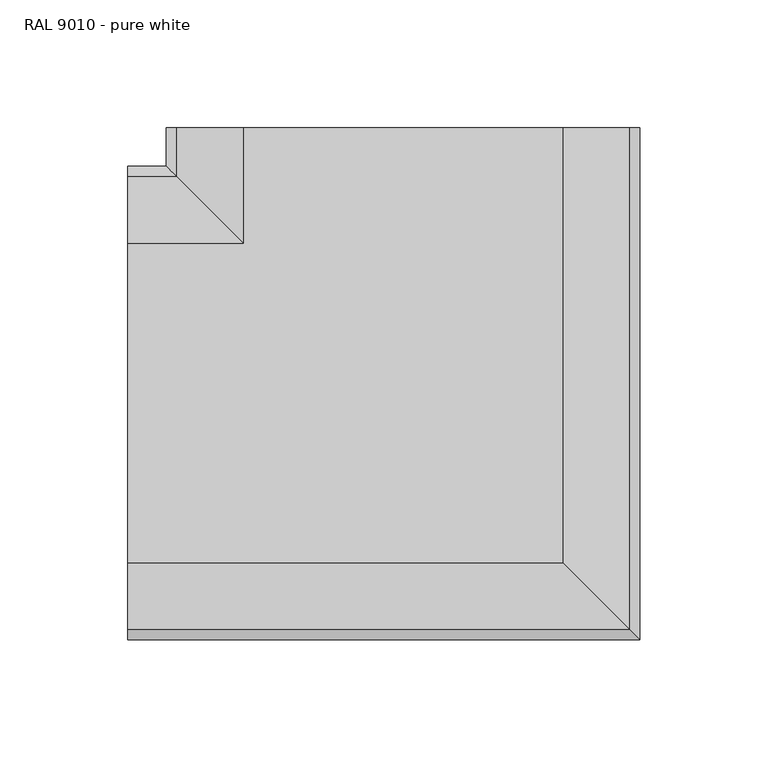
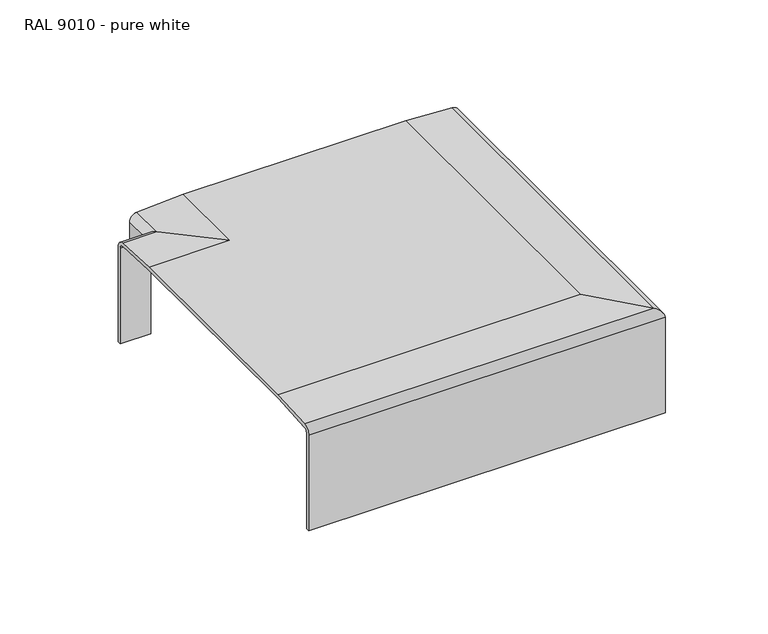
"""IFC4 building model written with IfcOpenShell, lengths in millimetres: cable carrier fitting geometry, Electrical_Installations_Hager_GBD-Flat-Corner-Vertical-Inside-And-Outside-Bend-Curved : RAL 9010 - pure white."""

from ifc_helpers import new_model, si_unit, frame, origin, place, context, project, spatial, polyline, circle_curve, ellipse_curve, source, transform, mapped, element, save
from ifc_brep_helpers import plane_surface, cylinder_surface, revolved_surface, advanced_brep


def ral_9010_pure_white_9b3faca7(model_context):
    return source(origin(), model_context, "Body", "AdvancedBrep", [
        advanced_brep(
        [(-107.5, -62.3381407, 34.8795859), (-107.5, 62.3381407, 34.8795859), (-107.5, 88.4122385, 33.3280659), (-107.5, 92.5, 28.9898348), (-107.5, 92.5, -27.5995611), (-107.5, 90.547897, -27.5995611), (-107.5, 90.547897, 28.9898348), (-107.5, 88.4081012, 31.3266677), (-107.5, 63.3292038, 32.8483359), (-107.5, -63.3292038, 32.8483359), (-107.5, -88.3439873, 31.3314381), (-107.5, -90.5387817, 28.9898348), (-107.5, -90.5387817, -27.70375), (-107.5, -92.5, -27.70375), (-107.5, -92.5, 28.9898348), (-107.5, -88.5359223, 33.3189335), (62.3381407, -62.3381407, 34.8795859), (62.3381407, 107.5, 34.8795859), (-62.3381407, 107.5, 34.8795859), (-62.3381407, 62.3381407, 34.8795859), (-88.4122385, 88.4122385, 33.3280659), (-92.5, 92.5, 28.9898348), (-92.5, 92.5, -27.5995611), (-92.5, 107.5, -27.5995611), (-90.547897, 107.5, -27.5995611), (-90.547897, 90.547897, -27.5995611), (-90.547897, 90.547897, 28.9898348), (-88.4081012, 88.4081012, 31.3266677), (-63.3292038, 63.3292038, 32.8483359), (-63.3292038, 107.5, 32.8483359), (63.3292038, 107.5, 32.8483359), (63.3292038, -63.3292038, 32.8483359), (88.3439873, -88.3439873, 31.3314381), (90.5387817, -90.5387817, 28.9898348), (90.5387817, -90.5387817, -27.70375), (90.5387817, 107.5, -27.70375), (92.5, 107.5, -27.70375), (92.5, -92.5, -27.70375), (92.5, -92.5, 28.9898348), (88.5359223, -88.5359223, 33.3189335), (88.4122385, 107.5, 33.3280659), (92.5, 107.5, 28.9898348), (90.5387817, 107.5, 28.9898348), (88.3989859, 107.5, 31.3266677), (-88.3439873, 107.5, 31.3314381), (-90.547897, 107.5, 28.9898348), (-92.5, 107.5, 28.9898348), (-88.5359223, 107.5, 33.3189335)],
        [
            (0, 1),
            (1, 2, circle_curve(frame((-107.5, 58.0459271, -257.1234178), z_axis=(-1.0, 0.0, 0.0), x_axis=(0.0, 0.0, -1.0)), 292.0345481)),
            (2, 3, circle_curve(frame((-107.5, 88.1540953, 28.9898348), z_axis=(-1.0, 0.0, 0.0), x_axis=(0.0, 0.0, -1.0)), 4.3459047)),
            (3, 4),
            (4, 5),
            (5, 6),
            (6, 7, circle_curve(frame((-107.5, 88.2019923, 28.9898348), z_axis=(1.0, 0.0, 0.0), x_axis=(0.0, 0.0, -1.0)), 2.3459047)),
            (7, 8, circle_curve(frame((-107.5, 58.8141248, -248.6234355), z_axis=(1.0, 0.0, 0.0), x_axis=(0.0, 0.0, -1.0)), 281.5079822)),
            (8, 9),
            (9, 10, circle_curve(frame((-107.5, -58.8141248, -248.6234355), z_axis=(1.0, 0.0, 0.0), x_axis=(0.0, 0.0, -1.0)), 281.5079822)),
            (10, 11, circle_curve(frame((-107.5, -88.192877, 28.9898348), z_axis=(1.0, 0.0, 0.0), x_axis=(0.0, 0.0, -1.0)), 2.3459047)),
            (11, 12),
            (12, 13),
            (13, 14),
            (14, 15, circle_curve(frame((-107.5, -88.1540953, 28.9898348), z_axis=(-1.0, 0.0, 0.0), x_axis=(0.0, 0.0, -1.0)), 4.3459047)),
            (15, 0, circle_curve(frame((-107.5, -58.0459271, -257.1234178), z_axis=(-1.0, 0.0, 0.0), x_axis=(0.0, 0.0, -1.0)), 292.0345481)),
            (0, 16),
            (16, 17),
            (17, 18),
            (18, 19),
            (19, 1),
            (19, 20, ellipse_curve(frame((-58.0459271, 58.0459271, -257.1234178), z_axis=(-0.7071067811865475, -0.7071067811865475, 0.0), x_axis=(-0.7071067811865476, 0.7071067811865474, 0.0)), 412.9992186, 292.0345481)),
            (20, 2),
            (20, 21, ellipse_curve(frame((-88.1540953, 88.1540953, 28.9898348), z_axis=(-0.7071067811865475, -0.7071067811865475, 0.0), x_axis=(-0.7071067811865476, 0.7071067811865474, 0.0)), 6.1460374, 4.3459047)),
            (21, 3),
            (21, 22),
            (22, 4),
            (22, 23),
            (23, 24),
            (24, 25),
            (25, 5),
            (25, 26),
            (26, 6),
            (26, 27, ellipse_curve(frame((-88.2019923, 88.2019923, 28.9898348), z_axis=(0.7071067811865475, 0.7071067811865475, 0.0), x_axis=(0.7071067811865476, -0.7071067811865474, 0.0)), 3.3176103, 2.3459047)),
            (27, 7),
            (27, 28, ellipse_curve(frame((-58.8141248, 58.8141248, -248.6234355), z_axis=(0.7071067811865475, 0.7071067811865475, 0.0), x_axis=(0.7071067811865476, -0.7071067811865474, 0.0)), 398.1124064, 281.5079822)),
            (28, 8),
            (28, 29),
            (29, 30),
            (30, 31),
            (31, 9),
            (31, 32, ellipse_curve(frame((58.8141248, -58.8141248, -248.6234355), z_axis=(0.7071067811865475, 0.7071067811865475, 0.0), x_axis=(0.7071067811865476, -0.7071067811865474, 0.0)), 398.1124064, 281.5079822)),
            (32, 10),
            (32, 33, ellipse_curve(frame((88.192877, -88.192877, 28.9898348), z_axis=(0.7071067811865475, 0.7071067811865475, 0.0), x_axis=(0.7071067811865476, -0.7071067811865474, 0.0)), 3.3176103, 2.3459047)),
            (33, 11),
            (33, 34),
            (34, 12),
            (34, 35),
            (35, 36),
            (36, 37),
            (37, 13),
            (37, 38),
            (38, 14),
            (38, 39, ellipse_curve(frame((88.1540953, -88.1540953, 28.9898348), z_axis=(-0.7071067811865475, -0.7071067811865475, 0.0), x_axis=(-0.7071067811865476, 0.7071067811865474, 0.0)), 6.1460374, 4.3459047)),
            (39, 15),
            (39, 16, ellipse_curve(frame((58.0459271, -58.0459271, -257.1234178), z_axis=(-0.7071067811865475, -0.7071067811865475, 0.0), x_axis=(-0.7071067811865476, 0.7071067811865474, 0.0)), 412.9992186, 292.0345481)),
            (17, 40, circle_curve(frame((58.0459271, 107.5, -257.1234178), z_axis=(0.0, 1.0, 0.0), x_axis=(0.0, 0.0, -1.0)), 292.0345481)),
            (40, 41, circle_curve(frame((88.1540953, 107.5, 28.9898348), z_axis=(0.0, 1.0, 0.0), x_axis=(0.0, 0.0, -1.0)), 4.3459047)),
            (41, 36),
            (35, 42),
            (42, 43, circle_curve(frame((88.192877, 107.5, 28.9898348), z_axis=(0.0, -1.0, 0.0), x_axis=(0.0, 0.0, -1.0)), 2.3459047)),
            (43, 30, circle_curve(frame((58.8141248, 107.5, -248.6234355), z_axis=(0.0, -1.0, 0.0), x_axis=(0.0, 0.0, -1.0)), 281.5079822)),
            (29, 44, circle_curve(frame((-58.8141248, 107.5, -248.6234355), z_axis=(0.0, -1.0, 0.0), x_axis=(0.0, 0.0, -1.0)), 281.5079822)),
            (44, 45, circle_curve(frame((-88.2019923, 107.5, 28.9898348), z_axis=(0.0, -1.0, 0.0), x_axis=(0.0, 0.0, -1.0)), 2.3459047)),
            (45, 24),
            (23, 46),
            (46, 47, circle_curve(frame((-88.1540953, 107.5, 28.9898348), z_axis=(0.0, 1.0, 0.0), x_axis=(0.0, 0.0, -1.0)), 4.3459047)),
            (47, 18, circle_curve(frame((-58.0459271, 107.5, -257.1234178), z_axis=(0.0, 1.0, 0.0), x_axis=(0.0, 0.0, -1.0)), 292.0345481)),
            (47, 20),
            (46, 21),
            (45, 26),
            (44, 27),
            (43, 32),
            (42, 33),
            (41, 38),
            (40, 39),
        ],
        [
            plane_surface(frame((-107.5, 0.0, 0.0), z_axis=(-1.0, 0.0, 0.0), x_axis=(0.0, 0.0, 1.0))),
            plane_surface(frame((-107.5, -62.3381407, 34.8795859), z_axis=(0.0, 0.0, 1.0), x_axis=(1.0, 0.0, 0.0))),
            cylinder_surface(frame((-107.5, 58.0459271, -257.1234178), z_axis=(-1.0, 0.0, 0.0), x_axis=(0.0, 0.0, -1.0)), 292.0345481),
            cylinder_surface(frame((-107.5, 88.1540953, 28.9898348), z_axis=(-1.0, 0.0, 0.0), x_axis=(0.0, 0.0, -1.0)), 4.3459047),
            plane_surface(frame((-107.5, 92.5, 28.9898348), z_axis=(0.0, 1.0, 0.0), x_axis=(1.0, 0.0, 0.0))),
            plane_surface(frame((-107.5, 92.5, -27.5995611), z_axis=(0.0, 0.0, -1.0), x_axis=(1.0, 0.0, 0.0))),
            plane_surface(frame((-107.5, 90.547897, -27.5995611), z_axis=(0.0, -1.0, 0.0), x_axis=(1.0, 0.0, 0.0))),
            revolved_surface(polyline([(-85.85608755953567, 88.2019923, 26.6439301), (-107.5, 88.2019923, 26.6439301)]), (-107.5, 88.2019923, 28.9898348), (1.0, 0.0, 0.0)),
            revolved_surface(polyline([(222.69385743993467, 58.8141248, -530.1314177), (-340.3221070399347, 58.8141248, -530.1314177)]), (-107.5, 58.8141248, -248.6234355), (1.0, 0.0, 0.0)),
            plane_surface(frame((-107.5, 63.3292038, 32.8483359), z_axis=(0.0, 0.0, -1.0), x_axis=(1.0, 0.0, 0.0))),
            revolved_surface(polyline([(340.3221070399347, -58.8141248, -530.1314177), (-222.69385743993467, -58.8141248, -530.1314177)]), (-107.5, -58.8141248, -248.6234355), (1.0, 0.0, 0.0)),
            revolved_surface(polyline([(90.53878174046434, -88.192877, 26.6439301), (-107.5, -88.192877, 26.6439301)]), (-107.5, -88.192877, 28.9898348), (1.0, 0.0, 0.0)),
            plane_surface(frame((-107.5, -90.5387817, 28.9898348), z_axis=(0.0, 1.0, 0.0), x_axis=(1.0, 0.0, 0.0))),
            plane_surface(frame((-107.5, -90.5387817, -27.70375), z_axis=(0.0, 0.0, -1.0), x_axis=(1.0, 0.0, 0.0))),
            plane_surface(frame((-107.5, -92.5, -27.70375), z_axis=(0.0, -1.0, 0.0), x_axis=(1.0, 0.0, 0.0))),
            cylinder_surface(frame((-107.5, -88.1540953, 28.9898348), z_axis=(-1.0, 0.0, 0.0), x_axis=(0.0, 0.0, -1.0)), 4.3459047),
            cylinder_surface(frame((-107.5, -58.0459271, -257.1234178), z_axis=(-1.0, 0.0, 0.0), x_axis=(0.0, 0.0, -1.0)), 292.0345481),
            plane_surface(frame((0.0, 107.5, 0.0), z_axis=(0.0, 1.0, 0.0), x_axis=(0.0, 0.0, 1.0))),
            cylinder_surface(frame((-58.0459271, 0.0, -257.1234178), z_axis=(0.0, -1.0, 0.0), x_axis=(0.0, 0.0, -1.0)), 292.0345481),
            cylinder_surface(frame((-88.1540953, 0.0, 28.9898348), z_axis=(0.0, -1.0, 0.0), x_axis=(0.0, 0.0, -1.0)), 4.3459047),
            plane_surface(frame((-92.5, 92.5, 28.9898348), z_axis=(-1.0, 0.0, 0.0), x_axis=(0.0, 1.0, 0.0))),
            plane_surface(frame((-90.547897, 90.547897, -27.5995611), z_axis=(1.0, 0.0, 0.0), x_axis=(0.0, 1.0, 0.0))),
            revolved_surface(polyline([(-88.2019923, 107.5, 26.6439301), (-88.2019923, 85.85608755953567, 26.6439301)]), (-88.2019923, 0.0, 28.9898348), (0.0, 1.0, 0.0)),
            revolved_surface(polyline([(-58.8141248, 340.3221070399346, -530.1314177), (-58.8141248, -222.69385743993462, -530.1314177)]), (-58.8141248, 0.0, -248.6234355), (0.0, 1.0, 0.0)),
            revolved_surface(polyline([(58.8141248, 222.69385743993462, -530.1314177), (58.8141248, -340.3221070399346, -530.1314177)]), (58.8141248, 0.0, -248.6234355), (0.0, 1.0, 0.0)),
            revolved_surface(polyline([(88.192877, 107.5, 26.6439301), (88.192877, -90.53878174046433, 26.6439301)]), (88.192877, 0.0, 28.9898348), (0.0, 1.0, 0.0)),
            plane_surface(frame((90.5387817, -90.5387817, 28.9898348), z_axis=(-1.0, 0.0, 0.0), x_axis=(0.0, 1.0, 0.0))),
            plane_surface(frame((92.5, -92.5, -27.70375), z_axis=(1.0, 0.0, 0.0), x_axis=(0.0, 1.0, 0.0))),
            cylinder_surface(frame((88.1540953, 0.0, 28.9898348), z_axis=(0.0, -1.0, 0.0), x_axis=(0.0, 0.0, -1.0)), 4.3459047),
            cylinder_surface(frame((58.0459271, 0.0, -257.1234178), z_axis=(0.0, -1.0, 0.0), x_axis=(0.0, 0.0, -1.0)), 292.0345481),
        ],
        [
            (0, [[1, 2, 3, 4, 5, 6, 7, 8, 9, 10, 11, 12, 13, 14, 15, 16]]),
            (1, [[-1, 17, 18, 19, 20, 21]]),
            (2, [[-2, -21, 22, 23]]),
            (3, [[-3, -23, 24, 25]]),
            (4, [[-4, -25, 26, 27]]),
            (5, [[-5, -27, 28, 29, 30, 31]]),
            (6, [[-6, -31, 32, 33]]),
            (7, [[-7, -33, 34, 35]]),
            (8, [[-8, -35, 36, 37]]),
            (9, [[-9, -37, 38, 39, 40, 41]]),
            (10, [[-10, -41, 42, 43]]),
            (11, [[-11, -43, 44, 45]]),
            (12, [[-12, -45, 46, 47]]),
            (13, [[-13, -47, 48, 49, 50, 51]]),
            (14, [[-14, -51, 52, 53]]),
            (15, [[-15, -53, 54, 55]]),
            (16, [[-16, -55, 56, -17]]),
            (17, [[57, 58, 59, -49, 60, 61, 62, -39, 63, 64, 65, -29, 66, 67, 68, -19]]),
            (18, [[-22, -20, -68, 69]]),
            (19, [[-24, -69, -67, 70]]),
            (20, [[-26, -70, -66, -28]]),
            (21, [[-32, -30, -65, 71]]),
            (22, [[-34, -71, -64, 72]]),
            (23, [[-36, -72, -63, -38]]),
            (24, [[-42, -40, -62, 73]]),
            (25, [[-44, -73, -61, 74]]),
            (26, [[-46, -74, -60, -48]]),
            (27, [[-52, -50, -59, 75]]),
            (28, [[-54, -75, -58, 76]]),
            (29, [[-56, -76, -57, -18]]),
        ],
    ),
    ])


if __name__ == "__main__":
    model = new_model("IFC4")
    model_context = context("Model", 3, world=origin())
    ifc_project = project(units=[si_unit("LENGTHUNIT", "METRE", prefix="MILLI")], contexts=[model_context])
    site = spatial("IfcSite", under=ifc_project)
    building = spatial("IfcBuilding", under=site)
    placement = place(None, origin())
    ral_9010_pure_white_shape = ral_9010_pure_white_9b3faca7(model_context)
    element("IfcCableCarrierFitting", 1, ObjectType="Electrical_Installations_Hager_GBD-Flat-Corner-Vertical-Inside-And-Outside-Bend-Curved : RAL 9010 - pure white", at=placement, inside=building, context=model_context, shape_type="MappedRepresentation", body=[
        mapped(ral_9010_pure_white_shape, transform((0.0, 0.0, 0.0), x_axis=(1.0, 0.0, 0.0), y_axis=(0.0, 1.0, 0.0), z_axis=(0.0, 0.0, 1.0))),
    ])
    save(model, "model.ifc")
